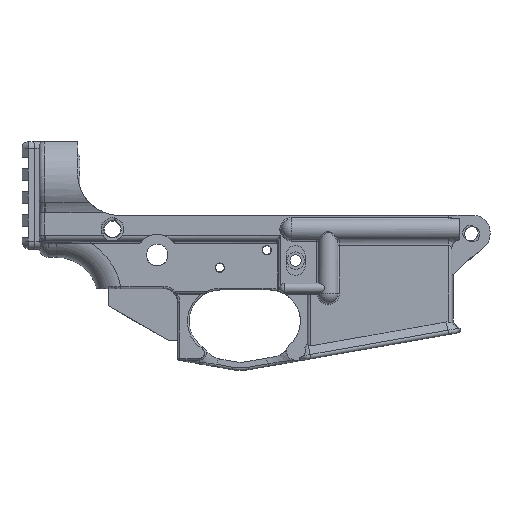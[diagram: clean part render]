
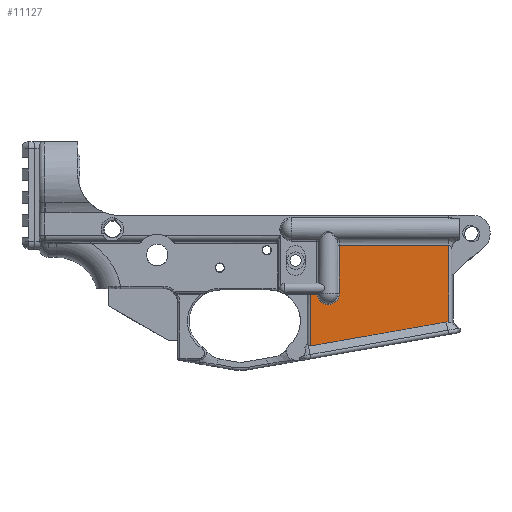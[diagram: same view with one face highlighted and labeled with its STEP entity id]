
A CAD part, left-side view. The second image highlights one B-rep face of the part: STEP entity #11127.
In plain terms, the highlighted planar face has unit normal (-1, 0, 0) as drawn and (0, 0, -1) by its records, which use the part's own axes.
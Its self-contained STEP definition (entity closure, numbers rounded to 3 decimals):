
#440=B_SPLINE_CURVE_WITH_KNOTS('',3,(#24877,#24878,#24879,#24880,#24881,
#24882),.UNSPECIFIED.,.F.,.F.,(4,2,4),(-0.114,-0.051,
0.),.UNSPECIFIED.);
#1022=PLANE('',#12272);
#1622=FACE_OUTER_BOUND('',#2282,.T.);
#2282=EDGE_LOOP('',(#10098,#10099,#10100,#10101,#10102,#10103,#10104,#10105));
#2959=LINE('',#22840,#3767);
#2960=LINE('',#22842,#3768);
#2961=LINE('',#22845,#3769);
#2962=LINE('',#22864,#3770);
#3121=LINE('',#24885,#3929);
#3122=LINE('',#24886,#3930);
#3767=VECTOR('',#14587,62.909);
#3768=VECTOR('',#14590,23.276);
#3769=VECTOR('',#14593,2.864);
#3770=VECTOR('',#14602,21.861);
#3929=VECTOR('',#15213,35.127);
#3930=VECTOR('',#15214,49.812);
#4364=CIRCLE('',#12044,5.168);
#5117=VERTEX_POINT('',#20739);
#5320=VERTEX_POINT('',#22836);
#5321=VERTEX_POINT('',#22838);
#5322=VERTEX_POINT('',#22844);
#5323=VERTEX_POINT('',#22859);
#5324=VERTEX_POINT('',#22863);
#5515=VERTEX_POINT('',#24866);
#5516=VERTEX_POINT('',#24884);
#6784=EDGE_CURVE('',#5320,#5321,#2959,.T.);
#6785=EDGE_CURVE('',#5320,#5117,#2960,.T.);
#6786=EDGE_CURVE('',#5322,#5117,#2961,.T.);
#6788=EDGE_CURVE('',#5322,#5323,#4364,.T.);
#6790=EDGE_CURVE('',#5324,#5323,#2962,.T.);
#7121=EDGE_CURVE('',#5321,#5515,#440,.T.);
#7122=EDGE_CURVE('',#5515,#5516,#3121,.T.);
#7123=EDGE_CURVE('',#5516,#5324,#3122,.T.);
#10098=ORIENTED_EDGE('',*,*,#7121,.T.);
#10099=ORIENTED_EDGE('',*,*,#7122,.T.);
#10100=ORIENTED_EDGE('',*,*,#7123,.T.);
#10101=ORIENTED_EDGE('',*,*,#6790,.T.);
#10102=ORIENTED_EDGE('',*,*,#6788,.F.);
#10103=ORIENTED_EDGE('',*,*,#6786,.T.);
#10104=ORIENTED_EDGE('',*,*,#6785,.F.);
#10105=ORIENTED_EDGE('',*,*,#6784,.T.);
#11127=ADVANCED_FACE('',(#1622),#1022,.T.);
#12044=AXIS2_PLACEMENT_3D('',#22860,#14596,#14597);
#12272=AXIS2_PLACEMENT_3D('',#24883,#15211,#15212);
#14587=DIRECTION('',(-0.985,0.174,0.));
#14590=DIRECTION('',(0.,1.,0.));
#14593=DIRECTION('',(1.,0.,0.));
#14596=DIRECTION('center_axis',(0.,0.,
-1.));
#14597=DIRECTION('ref_axis',(-1.,0.,0.));
#14602=DIRECTION('',(0.,-1.,0.));
#15211=DIRECTION('center_axis',(0.,0.,
-1.));
#15212=DIRECTION('ref_axis',(0.,-1.,0.));
#15213=DIRECTION('',(0.,1.,0.));
#15214=DIRECTION('',(1.,0.,0.));
#20739=CARTESIAN_POINT('',(471.069,131.711,-0.558));
#22836=CARTESIAN_POINT('',(471.069,108.435,-0.558));
#22838=CARTESIAN_POINT('',(409.116,119.359,-0.558));
#22840=CARTESIAN_POINT('',(471.069,108.435,-0.558));
#22842=CARTESIAN_POINT('',(471.069,108.435,-0.558));
#22844=CARTESIAN_POINT('',(468.205,131.711,-0.558));
#22845=CARTESIAN_POINT('',(468.205,131.711,-0.558));
#22859=CARTESIAN_POINT('',(457.926,132.473,-0.558));
#22860=CARTESIAN_POINT('Origin',(463.094,132.473,-0.558));
#22863=CARTESIAN_POINT('',(457.926,154.335,-0.558));
#22864=CARTESIAN_POINT('',(457.926,154.335,-0.558));
#24866=CARTESIAN_POINT('',(408.113,119.207,-0.558));
#24877=CARTESIAN_POINT('Ctrl Pts',(409.116,119.359,-0.558));
#24878=CARTESIAN_POINT('Ctrl Pts',(408.979,119.383,-0.558));
#24879=CARTESIAN_POINT('Ctrl Pts',(408.813,119.39,-0.558));
#24880=CARTESIAN_POINT('Ctrl Pts',(408.438,119.325,-0.558));
#24881=CARTESIAN_POINT('Ctrl Pts',(408.272,119.271,-0.558));
#24882=CARTESIAN_POINT('Ctrl Pts',(408.113,119.207,-0.558));
#24883=CARTESIAN_POINT('Origin',(439.591,108.159,-0.558));
#24884=CARTESIAN_POINT('',(408.113,154.335,-0.558));
#24885=CARTESIAN_POINT('',(408.113,119.207,-0.558));
#24886=CARTESIAN_POINT('',(408.113,154.335,-0.558));
